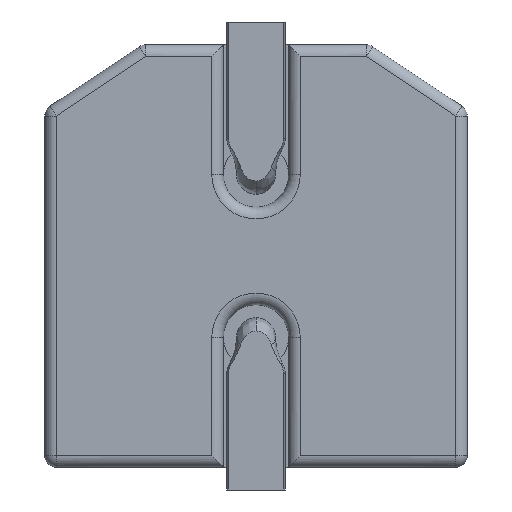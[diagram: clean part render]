
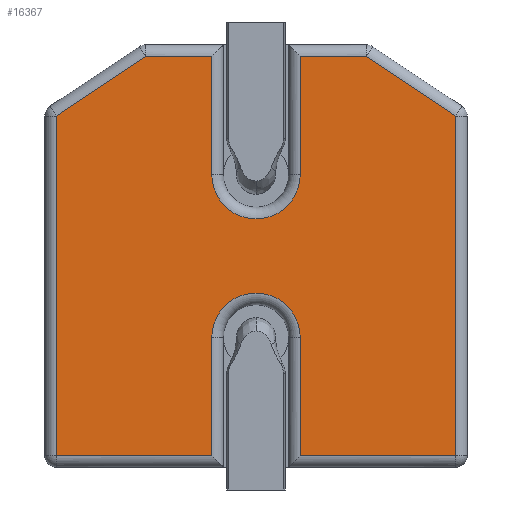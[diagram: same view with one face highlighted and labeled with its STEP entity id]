
A CAD part, left-side view. The second image highlights one B-rep face of the part: STEP entity #16367.
In plain terms, the highlighted planar face has unit normal (-1, 0, 0) as drawn and (0, -1, 0) by its records, which use the part's own axes.
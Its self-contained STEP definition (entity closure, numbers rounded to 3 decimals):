
#14942=DIRECTION('',(-0.832,0.,0.555));
#14943=VECTOR('',#14942,1.652);
#14944=CARTESIAN_POINT('',(3.07,0.,2.154));
#14945=LINE('',#14944,#14943);
#14946=DIRECTION('',(0.,0.,1.));
#14947=VECTOR('',#14946,5.224);
#14948=CARTESIAN_POINT('',(3.07,0.,-3.07));
#14949=LINE('',#14948,#14947);
#14950=DIRECTION('',(1.,0.,0.));
#14951=VECTOR('',#14950,2.39);
#14952=CARTESIAN_POINT('',(0.68,0.,-3.07));
#14953=LINE('',#14952,#14951);
#14954=DIRECTION('',(0.,0.,-1.));
#14955=VECTOR('',#14954,1.82);
#14956=CARTESIAN_POINT('',(0.68,0.,-1.25));
#14957=LINE('',#14956,#14955);
#14958=DIRECTION('',(0.,0.,1.));
#14959=VECTOR('',#14958,1.82);
#14960=CARTESIAN_POINT('',(-0.68,0.,-3.07));
#14961=LINE('',#14960,#14959);
#14962=DIRECTION('',(1.,0.,0.));
#14963=VECTOR('',#14962,2.39);
#14964=CARTESIAN_POINT('',(-3.07,0.,-3.07));
#14965=LINE('',#14964,#14963);
#14966=DIRECTION('',(0.,0.,-1.));
#14967=VECTOR('',#14966,5.224);
#14968=CARTESIAN_POINT('',(-3.07,0.,2.154));
#14969=LINE('',#14968,#14967);
#14970=DIRECTION('',(0.832,0.,0.555));
#14971=VECTOR('',#14970,1.652);
#14972=CARTESIAN_POINT('',(-3.07,0.,2.154));
#14973=LINE('',#14972,#14971);
#14974=DIRECTION('',(-1.,0.,0.));
#14975=VECTOR('',#14974,1.016);
#14976=CARTESIAN_POINT('',(-0.68,0.,3.07));
#14977=LINE('',#14976,#14975);
#14978=DIRECTION('',(0.,0.,1.));
#14979=VECTOR('',#14978,1.82);
#14980=CARTESIAN_POINT('',(-0.68,0.,1.25));
#14981=LINE('',#14980,#14979);
#14982=DIRECTION('',(0.,0.,-1.));
#14983=VECTOR('',#14982,1.82);
#14984=CARTESIAN_POINT('',(0.68,0.,3.07));
#14985=LINE('',#14984,#14983);
#14986=DIRECTION('',(-1.,0.,0.));
#14987=VECTOR('',#14986,1.016);
#14988=CARTESIAN_POINT('',(1.696,0.,3.07));
#14989=LINE('',#14988,#14987);
#15020=CARTESIAN_POINT('',(0.68,0.,3.07));
#15022=CARTESIAN_POINT('',(0.,0.,1.25));
#15023=DIRECTION('',(0.,1.,0.));
#15024=DIRECTION('',(1.,0.,0.));
#15025=AXIS2_PLACEMENT_3D('',#15022,#15023,#15024);
#15104=CARTESIAN_POINT('',(-0.68,0.,-3.07));
#15106=CARTESIAN_POINT('',(0.,0.,-1.25));
#15107=DIRECTION('',(0.,1.,0.));
#15108=DIRECTION('',(-1.,0.,0.));
#15109=AXIS2_PLACEMENT_3D('',#15106,#15107,#15108);
#15126=CARTESIAN_POINT('',(0.68,0.,-3.07));
#16154=CARTESIAN_POINT('',(-3.07,0.,-3.07));
#16156=VERTEX_POINT('',#16154);
#16165=VERTEX_POINT('',#15104);
#16166=CARTESIAN_POINT('',(3.07,0.,-3.07));
#16168=VERTEX_POINT('',#16166);
#16171=VERTEX_POINT('',#15126);
#16190=CARTESIAN_POINT('',(1.696,0.,3.07));
#16192=VERTEX_POINT('',#16190);
#16205=VERTEX_POINT('',#15020);
#16207=CARTESIAN_POINT('',(-1.696,0.,3.07));
#16209=VERTEX_POINT('',#16207);
#16250=CARTESIAN_POINT('',(3.07,0.,2.154));
#16251=VERTEX_POINT('',#16250);
#16252=CARTESIAN_POINT('',(-0.68,0.,3.07));
#16253=VERTEX_POINT('',#16252);
#16300=CARTESIAN_POINT('',(-0.68,0.,-1.25));
#16301=VERTEX_POINT('',#16300);
#16308=CARTESIAN_POINT('',(0.68,0.,-1.25));
#16309=VERTEX_POINT('',#16308);
#16312=CARTESIAN_POINT('',(-3.07,0.,2.154));
#16313=VERTEX_POINT('',#16312);
#16318=CARTESIAN_POINT('',(0.68,0.,1.25));
#16319=VERTEX_POINT('',#16318);
#16326=CARTESIAN_POINT('',(-0.68,0.,1.25));
#16327=VERTEX_POINT('',#16326);
#16332=CARTESIAN_POINT('',(0.,0.,0.));
#16333=DIRECTION('',(0.,1.,0.));
#16334=DIRECTION('',(0.,0.,1.));
#16335=AXIS2_PLACEMENT_3D('',#16332,#16333,#16334);
#16336=PLANE('',#16335);
#16338=ORIENTED_EDGE('',*,*,#16337,.F.);
#16340=ORIENTED_EDGE('',*,*,#16339,.F.);
#16342=ORIENTED_EDGE('',*,*,#16341,.F.);
#16344=ORIENTED_EDGE('',*,*,#16343,.F.);
#16346=ORIENTED_EDGE('',*,*,#16345,.F.);
#16348=ORIENTED_EDGE('',*,*,#16347,.F.);
#16350=ORIENTED_EDGE('',*,*,#16349,.F.);
#16352=ORIENTED_EDGE('',*,*,#16351,.F.);
#16354=ORIENTED_EDGE('',*,*,#16353,.T.);
#16356=ORIENTED_EDGE('',*,*,#16355,.F.);
#16358=ORIENTED_EDGE('',*,*,#16357,.F.);
#16360=ORIENTED_EDGE('',*,*,#16359,.F.);
#16362=ORIENTED_EDGE('',*,*,#16361,.F.);
#16364=ORIENTED_EDGE('',*,*,#16363,.F.);
#16365=EDGE_LOOP('',(#16338,#16340,#16342,#16344,#16346,#16348,#16350,#16352,
#16354,#16356,#16358,#16360,#16362,#16364));
#16366=FACE_OUTER_BOUND('',#16365,.F.);
#16367=ADVANCED_FACE('',(#16366),#16336,.F.);
#15026=CIRCLE('',#15025,0.68);
#15110=CIRCLE('',#15109,0.68);
#16337=EDGE_CURVE('',#16251,#16192,#14945,.T.);
#16339=EDGE_CURVE('',#16168,#16251,#14949,.T.);
#16341=EDGE_CURVE('',#16171,#16168,#14953,.T.);
#16343=EDGE_CURVE('',#16309,#16171,#14957,.T.);
#16345=EDGE_CURVE('',#16301,#16309,#15110,.T.);
#16347=EDGE_CURVE('',#16165,#16301,#14961,.T.);
#16349=EDGE_CURVE('',#16156,#16165,#14965,.T.);
#16351=EDGE_CURVE('',#16313,#16156,#14969,.T.);
#16353=EDGE_CURVE('',#16313,#16209,#14973,.T.);
#16355=EDGE_CURVE('',#16253,#16209,#14977,.T.);
#16357=EDGE_CURVE('',#16327,#16253,#14981,.T.);
#16359=EDGE_CURVE('',#16319,#16327,#15026,.T.);
#16361=EDGE_CURVE('',#16205,#16319,#14985,.T.);
#16363=EDGE_CURVE('',#16192,#16205,#14989,.T.);
